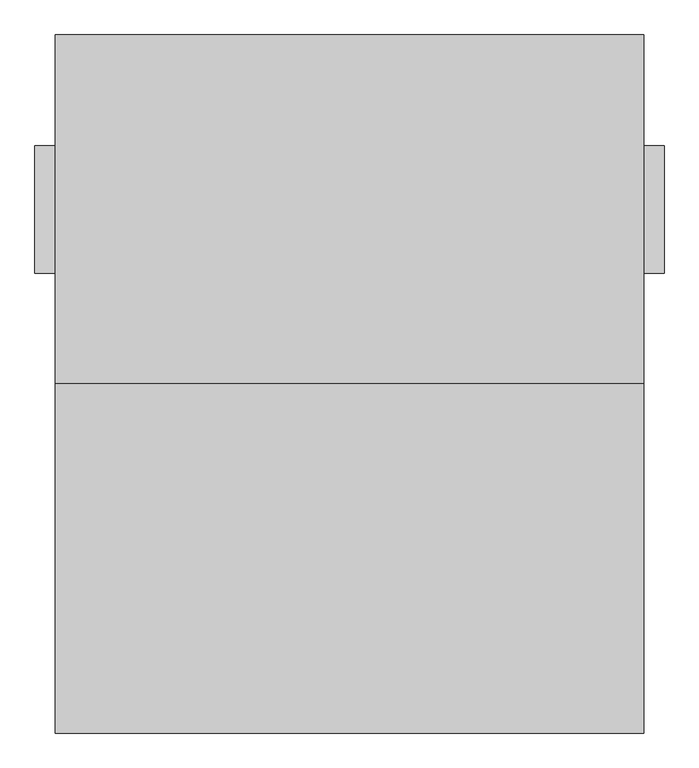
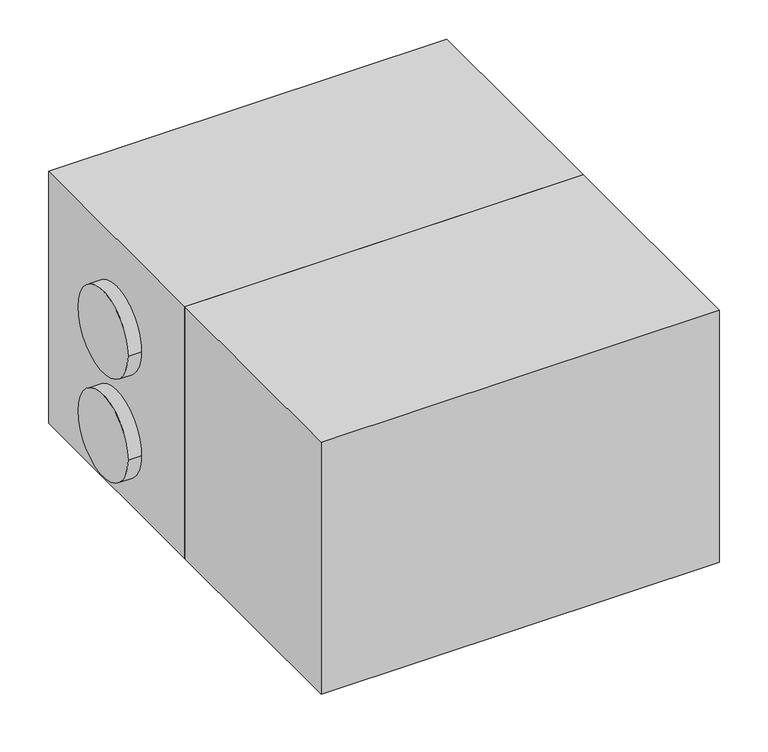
"""IFC4 building model written with IfcOpenShell, lengths in millimetres: proxy geometry, ADSK_КПВУ RIVIERA-EC HRW_круглая : Riviera-EC HRW 1400."""

import ifcopenshell
import ifcopenshell.guid

model = None  # the IFC model being written
_history = None  # IfcOwnerHistory: only IFC2X3 demands one
_inside = {}  # id of a spatial element -> (the spatial element, [elements in it])
_under = {}  # id of a project, library or spatial element -> (it, [spatial elements below it])
_declared = {}  # id of a project -> (the project, [libraries it declares])
_typed = {}  # id of a type object -> (the type object, [elements of that type])
_made_of = {}  # id of a material, layer set ... -> (it, [elements and type objects made of it])


def new_model(schema):
    """Start an empty IFC model of exactly this schema.

    Asked for "IFC4X3", IfcOpenShell would pick the latest addendum, in which some entities
    have other attributes; the version numbers below select the first issue.
    IFC2X3 requires an IfcOwnerHistory on every rooted entity: one is made here for all.
    """
    global model, _history
    if schema == "IFC4X3":
        model = ifcopenshell.file(schema_version=(4, 3, 0, 0))
    else:
        model = ifcopenshell.file(schema=schema)
    _inside.clear()
    _under.clear()
    _declared.clear()
    _typed.clear()
    _made_of.clear()
    _history = None
    if model.schema == "IFC2X3":
        org = make("IfcOrganization", Name="unknown")
        user = make(
            "IfcPersonAndOrganization",
            ThePerson=make("IfcPerson", FamilyName="unknown"),
            TheOrganization=org,
        )
        app = make(
            "IfcApplication",
            ApplicationDeveloper=org,
            Version="unknown",
            ApplicationFullName="unknown",
            ApplicationIdentifier="unknown",
        )
        _history = make(
            "IfcOwnerHistory",
            OwningUser=user,
            OwningApplication=app,
            ChangeAction="ADDED",
            CreationDate=0,
        )
    return model


def make(cls, **values):
    """One entity of the class cls with the attributes given. An attribute that is None is left unset."""
    return model.create_entity(
        cls, **{name: value for name, value in values.items() if value is not None}
    )


def rooted(cls, **values):
    """An entity with a GlobalId (a new one), such as an element, a storey or a relation."""
    return make(cls, GlobalId=ifcopenshell.guid.new(), OwnerHistory=_history, **values)


def si_unit(unit_type, name, prefix=None):
    """IfcSIUnit, for example si_unit("LENGTHUNIT", "METRE", prefix="MILLI")."""
    return make("IfcSIUnit", UnitType=unit_type, Prefix=prefix, Name=name)


def assignment(units):
    """IfcUnitAssignment: the units of a project."""
    return None if units is None else make("IfcUnitAssignment", Units=units)


def point(xyz):
    """IfcCartesianPoint."""
    return None if xyz is None else make("IfcCartesianPoint", Coordinates=xyz)


def direction(xyz):
    """IfcDirection."""
    return None if xyz is None else make("IfcDirection", DirectionRatios=xyz)


def frame(location, z_axis=None, x_axis=None):
    """IfcAxis2Placement3D, a coordinate frame: its origin and axes. An axis left out is left unset."""
    return make(
        "IfcAxis2Placement3D",
        Location=point(location),
        Axis=direction(z_axis),
        RefDirection=direction(x_axis),
    )


def frame_2d(location, x_axis=None):
    """IfcAxis2Placement2D, a coordinate frame in the plane: its origin and x axis."""
    return make(
        "IfcAxis2Placement2D", Location=point(location), RefDirection=direction(x_axis)
    )


def origin():
    """The frame at (0, 0, 0) with its axes left unset."""
    return frame((0.0, 0.0, 0.0))


def place(relative_to, where):
    """IfcLocalPlacement: puts the frame where relative to a parent placement (None: the world)."""
    return make(
        "IfcLocalPlacement", PlacementRelTo=relative_to, RelativePlacement=where
    )


def context(
    kind, dimensions, precision=None, world=None, true_north=None, identifier=None
):
    """IfcGeometricRepresentationContext, for example the 3D "Model" context."""
    return make(
        "IfcGeometricRepresentationContext",
        ContextIdentifier=identifier,
        ContextType=kind,
        CoordinateSpaceDimension=dimensions,
        Precision=precision,
        WorldCoordinateSystem=world,
        TrueNorth=true_north,
    )


def project(units=None, contexts=None):
    """IfcProject with its units and contexts."""
    return rooted(
        "IfcProject",
        Name="project",
        RepresentationContexts=contexts,
        UnitsInContext=assignment(units),
    )


def spatial(cls, under=None, at=None, **own):
    """A site, building, storey or space (cls), placed at a placement, below another one or the project."""
    s = rooted(cls, ObjectPlacement=at, **own)
    if under is not None:
        _under.setdefault(under.id(), (under, []))[1].append(s)
    return s


def polyline(points):
    """IfcPolyline through the points."""
    return make("IfcPolyline", Points=[point(p) for p in points])


def circle_curve(where, radius):
    """IfcCircle in the frame where."""
    return make("IfcCircle", Position=where, Radius=radius)


def trimmed(basis, trim1, trim2, sense, master):
    """IfcTrimmedCurve: the piece of a basis curve between two trims."""
    return make(
        "IfcTrimmedCurve",
        BasisCurve=basis,
        Trim1=trim1,
        Trim2=trim2,
        SenseAgreement=sense,
        MasterRepresentation=master,
    )


def segment(curve, same_sense, transition):
    """IfcCompositeCurveSegment."""
    return make(
        "IfcCompositeCurveSegment",
        Transition=transition,
        SameSense=same_sense,
        ParentCurve=curve,
    )


def composite_curve(segments, self_intersect=None):
    """IfcCompositeCurve: segments joined end to end."""
    return make("IfcCompositeCurve", Segments=segments, SelfIntersect=self_intersect)


def outline(outer, holes=None, kind="AREA"):
    """IfcArbitraryClosedProfileDef: a profile drawn as a closed curve; with holes, ...WithVoids."""
    if holes is None:
        return make("IfcArbitraryClosedProfileDef", ProfileType=kind, OuterCurve=outer)
    return make(
        "IfcArbitraryProfileDefWithVoids",
        ProfileType=kind,
        OuterCurve=outer,
        InnerCurves=holes,
    )


def extrude(swept, where, along, depth):
    """IfcExtrudedAreaSolid: the profile swept, set in the frame where, extruded along a direction by depth."""
    return make(
        "IfcExtrudedAreaSolid",
        SweptArea=swept,
        Position=where,
        ExtrudedDirection=direction(along),
        Depth=depth,
    )


def shape(context_of_items, identifier, shape_type, items):
    """IfcShapeRepresentation: the items that make up one representation, for example the "Body"."""
    return make(
        "IfcShapeRepresentation",
        ContextOfItems=context_of_items,
        RepresentationIdentifier=identifier,
        RepresentationType=shape_type,
        Items=items,
    )


def source(mapping_origin, context_of_items, identifier, shape_type, items):
    """IfcRepresentationMap: a shape defined once, which mapped items show again and again."""
    return make(
        "IfcRepresentationMap",
        MappingOrigin=mapping_origin,
        MappedRepresentation=shape(context_of_items, identifier, shape_type, items),
    )


def transform(
    local_origin,
    x_axis=None,
    y_axis=None,
    z_axis=None,
    scale=None,
    scale2=None,
    scale3=None,
    uniform=True,
):
    """IfcCartesianTransformationOperator3D, or its non-uniform kind. x_axis, y_axis, z_axis: its Axis1, 2, 3."""
    if uniform:
        return make(
            "IfcCartesianTransformationOperator3D",
            Axis1=direction(x_axis),
            Axis2=direction(y_axis),
            LocalOrigin=point(local_origin),
            Scale=scale,
            Axis3=direction(z_axis),
        )
    return make(
        "IfcCartesianTransformationOperator3DnonUniform",
        Axis1=direction(x_axis),
        Axis2=direction(y_axis),
        LocalOrigin=point(local_origin),
        Scale=scale,
        Axis3=direction(z_axis),
        Scale2=scale2,
        Scale3=scale3,
    )


def mapped(mapping_source, mapping_target):
    """IfcMappedItem: shows the shape of a source again, moved by a transform."""
    return make(
        "IfcMappedItem", MappingSource=mapping_source, MappingTarget=mapping_target
    )


def made_of(thing, what):
    """Note that an element or type object is made of a material, layer set ...; save() writes the relation."""
    if what is not None:
        _made_of.setdefault(what.id(), (what, []))[1].append(thing)
    return thing


def element(
    cls,
    number,
    at=None,
    inside=None,
    cuts=None,
    type_object=None,
    material=None,
    context=None,
    identifier="Body",
    shape_type=None,
    held_by="IfcProductDefinitionShape",
    body=None,
    shapes=None,
    **own,
):
    """One element of the class cls, such as IfcWall. Its Tag is "e" and its number.

    at: its placement. inside: the storey or other place that contains it. cuts: it is an
    opening in that element (IfcRelVoidsElement). A single representation is given by context,
    identifier, shape_type and body (its items); several are given by shapes. held_by: the class
    of the entity that holds the representations. save() writes the other relations.
    """
    e = rooted(cls, Tag="e%d" % number, ObjectPlacement=at, **own)
    if body is not None:
        shapes = [shape(context, identifier, shape_type, body)]
    if shapes is not None:
        e.Representation = make(held_by, Representations=shapes)
    if inside is not None:
        _inside.setdefault(inside.id(), (inside, []))[1].append(e)
    if cuts is not None:
        rooted(
            "IfcRelVoidsElement", RelatingBuildingElement=cuts, RelatedOpeningElement=e
        )
    if type_object is not None:
        _typed.setdefault(type_object.id(), (type_object, []))[1].append(e)
    return made_of(e, material)


def aggregate(whole, parts):
    """IfcRelAggregates: a whole, such as a stair, and the parts it consists of."""
    return rooted("IfcRelAggregates", RelatingObject=whole, RelatedObjects=parts)


def save(model, path):
    """Write the relations noted so far, then the file.

    IfcRelAggregates (storeys below a building ...), IfcRelContainedInSpatialStructure (elements
    in a storey), IfcRelDefinesByType, IfcRelAssociatesMaterial and IfcRelDeclares: one each for
    every whole, place, type object, material and project.
    """
    for whole, parts in _under.values():
        aggregate(whole, parts)
    for where, things in _inside.values():
        rooted(
            "IfcRelContainedInSpatialStructure",
            RelatedElements=things,
            RelatingStructure=where,
        )
    for kind, things in _typed.values():
        rooted("IfcRelDefinesByType", RelatedObjects=things, RelatingType=kind)
    for what, things in _made_of.values():
        rooted("IfcRelAssociatesMaterial", RelatedObjects=things, RelatingMaterial=what)
    for by, libraries in _declared.values():
        rooted("IfcRelDeclares", RelatingContext=by, RelatedDefinitions=libraries)
    model.write(path)


def mechanical_equipment_fc167629(model_context):
    return source(origin(), model_context, "Body", "SweptSolid", [
        extrude(outline(polyline([(991.0, -430.0), (991.0, -1290.0), (-459.0, -1290.0), (-459.0, -430.0), (991.0, -430.0)])), frame((0.0, 0.0, 70.0), z_axis=(0.0, 0.0, 1.0), x_axis=(1.0, 0.0, 0.0)), (0.0, 0.0, 1.0), 970.0),
        extrude(outline(polyline([(991.0, 430.0), (991.0, -430.0), (-459.0, -430.0), (-459.0, 430.0), (991.0, 430.0)])), frame((0.0, 0.0, 70.0), z_axis=(0.0, 0.0, 1.0), x_axis=(1.0, 0.0, 0.0)), (0.0, 0.0, 1.0), 970.0),
        extrude(outline(composite_curve([segment(trimmed(circle_curve(frame_2d((0.0, 701.0)), 157.5), [point((-157.5, 701.0))], [point((157.5, 701.0))], False, "CARTESIAN"), True, "CONTINUOUS"), segment(trimmed(circle_curve(frame_2d((0.0, 701.0)), 157.5), [point((157.5, 701.0))], [point((-157.5, 701.0))], False, "CARTESIAN"), True, "CONTINUOUS")], self_intersect=False)), frame((-509.0, 0.0, 0.0), z_axis=(1.0, 0.0, 0.0), x_axis=(0.0, 1.0, 0.0)), (0.0, 0.0, 1.0), 50.0),
        extrude(outline(composite_curve([segment(trimmed(circle_curve(frame_2d((0.0, 301.0)), 157.5), [point((-157.5, 301.0))], [point((157.5, 301.0))], False, "CARTESIAN"), True, "CONTINUOUS"), segment(trimmed(circle_curve(frame_2d((0.0, 301.0)), 157.5), [point((157.5, 301.0))], [point((-157.5, 301.0))], False, "CARTESIAN"), True, "CONTINUOUS")], self_intersect=False)), frame((-509.0, 0.0, 0.0), z_axis=(1.0, 0.0, 0.0), x_axis=(0.0, 1.0, 0.0)), (0.0, 0.0, 1.0), 50.0),
        extrude(outline(composite_curve([segment(trimmed(circle_curve(frame_2d((0.0, 701.0)), 157.5), [point((-157.5, 701.0))], [point((157.5, 701.0))], False, "CARTESIAN"), True, "CONTINUOUS"), segment(trimmed(circle_curve(frame_2d((0.0, 701.0)), 157.5), [point((157.5, 701.0))], [point((-157.5, 701.0))], False, "CARTESIAN"), True, "CONTINUOUS")], self_intersect=False)), frame((991.0, 0.0, 0.0), z_axis=(1.0, 0.0, 0.0), x_axis=(0.0, 1.0, 0.0)), (0.0, 0.0, 1.0), 50.0),
        extrude(outline(composite_curve([segment(trimmed(circle_curve(frame_2d((0.0, 301.0)), 157.5), [point((-157.5, 301.0))], [point((157.5, 301.0))], False, "CARTESIAN"), True, "CONTINUOUS"), segment(trimmed(circle_curve(frame_2d((0.0, 301.0)), 157.5), [point((157.5, 301.0))], [point((-157.5, 301.0))], False, "CARTESIAN"), True, "CONTINUOUS")], self_intersect=False)), frame((991.0, 0.0, 0.0), z_axis=(1.0, 0.0, 0.0), x_axis=(0.0, 1.0, 0.0)), (0.0, 0.0, 1.0), 50.0),
        extrude(outline(polyline([(0.0, -279.0), (70.0, -279.0), (70.0, -289.0), (10.0, -289.0), (10.0, -329.0), (70.0, -329.0), (70.0, -339.0), (0.0, -339.0), (0.0, -279.0)])), frame((0.0, -430.0, 0.0), z_axis=(0.0, 1.0, 0.0), x_axis=(0.0, 0.0, 1.0)), (0.0, 0.0, 1.0), 860.0),
        extrude(outline(polyline([(0.0, 871.0), (70.0, 871.0), (70.0, 861.0), (10.0, 861.0), (10.0, 821.0), (70.0, 821.0), (70.0, 811.0), (0.0, 811.0), (0.0, 871.0)])), frame((0.0, -430.0, 0.0), z_axis=(0.0, 1.0, 0.0), x_axis=(0.0, 0.0, 1.0)), (0.0, 0.0, 1.0), 860.0),
    ])


if __name__ == "__main__":
    model = new_model("IFC4")
    model_context = context("Model", 3, world=origin())
    ifc_project = project(units=[si_unit("LENGTHUNIT", "METRE", prefix="MILLI")], contexts=[model_context])
    site = spatial("IfcSite", under=ifc_project)
    building = spatial("IfcBuilding", under=site)
    placement = place(None, origin())
    mechanical_equipment_shape = mechanical_equipment_fc167629(model_context)
    element("IfcBuildingElementProxy", 1, Name="ADSK_КПВУ RIVIERA-EC HRW_круглая : Riviera-EC HRW 1400", ObjectType="ADSK_КПВУ RIVIERA-EC HRW_круглая : Riviera-EC HRW 1400", at=placement, inside=building, context=model_context, shape_type="MappedRepresentation", body=[
        mapped(mechanical_equipment_shape, transform((0.0, 0.0, 0.0), x_axis=(1.0, 0.0, 0.0), y_axis=(0.0, 1.0, 0.0), z_axis=(0.0, 0.0, 1.0))),
    ])
    save(model, "model.ifc")
